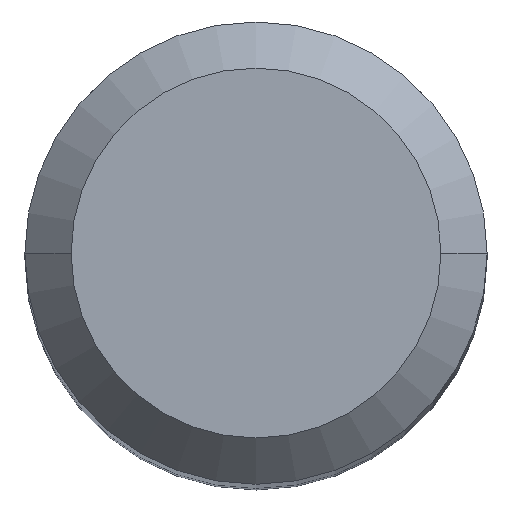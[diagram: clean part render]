
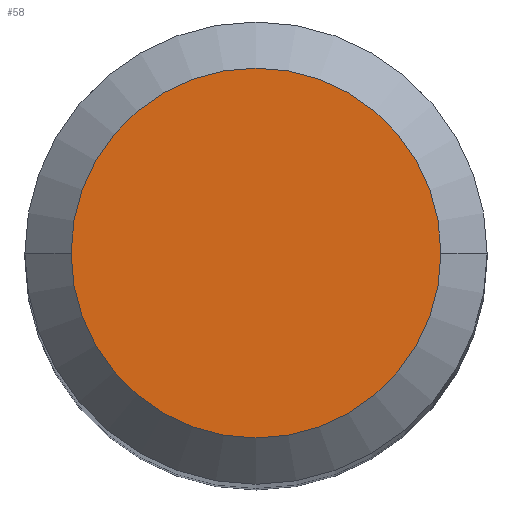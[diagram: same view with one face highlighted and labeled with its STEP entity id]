
A CAD part, top view. The second image highlights one B-rep face of the part: STEP entity #58.
In plain terms, the highlighted planar face has unit normal (0, 0, 1).
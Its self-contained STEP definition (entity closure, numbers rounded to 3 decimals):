
#9 = AXIS2_PLACEMENT_3D ( 'NONE', #143, #236, #272 ) ;
#12 = CARTESIAN_POINT ( 'NONE',  ( 0., 0., 0. ) ) ;
#21 = FACE_OUTER_BOUND ( 'NONE', #36, .T. ) ;
#23 = CARTESIAN_POINT ( 'NONE',  ( 4., 0., 0. ) ) ;
#25 = VERTEX_POINT ( 'NONE', #219 ) ;
#36 = EDGE_LOOP ( 'NONE', ( #422, #261 ) ) ;
#41 = CARTESIAN_POINT ( 'NONE',  ( 0., 4., 0. ) ) ;
#58 = ADVANCED_FACE ( 'NONE', ( #21 ), #343, .T. ) ;
#71 = DIRECTION ( 'NONE',  ( 0., 0., 1. ) ) ;
#140 = CIRCLE ( 'NONE', #397, 4. ) ;
#143 = CARTESIAN_POINT ( 'NONE',  ( 0., 0., 0. ) ) ;
#158 = CIRCLE ( 'NONE', #9, 4. ) ;
#170 = EDGE_CURVE ( 'NONE', #456, #25, #158, .T. ) ;
#177 = DIRECTION ( 'NONE',  ( 0., 0., -1. ) ) ;
#219 = CARTESIAN_POINT ( 'NONE',  ( -4., 0., 0. ) ) ;
#236 = DIRECTION ( 'NONE',  ( 0., 0., -1. ) ) ;
#261 = ORIENTED_EDGE ( 'NONE', *, *, #170, .F. ) ;
#272 = DIRECTION ( 'NONE',  ( -1., 0., 0. ) ) ;
#320 = AXIS2_PLACEMENT_3D ( 'NONE', #41, #71, #428 ) ;
#343 = PLANE ( 'NONE',  #320 ) ;
#371 = DIRECTION ( 'NONE',  ( -1., 0., 0. ) ) ;
#397 = AXIS2_PLACEMENT_3D ( 'NONE', #12, #177, #371 ) ;
#422 = ORIENTED_EDGE ( 'NONE', *, *, #475, .F. ) ;
#428 = DIRECTION ( 'NONE',  ( 1., 0., 0. ) ) ;
#456 = VERTEX_POINT ( 'NONE', #23 ) ;
#475 = EDGE_CURVE ( 'NONE', #25, #456, #140, .T. ) ;
